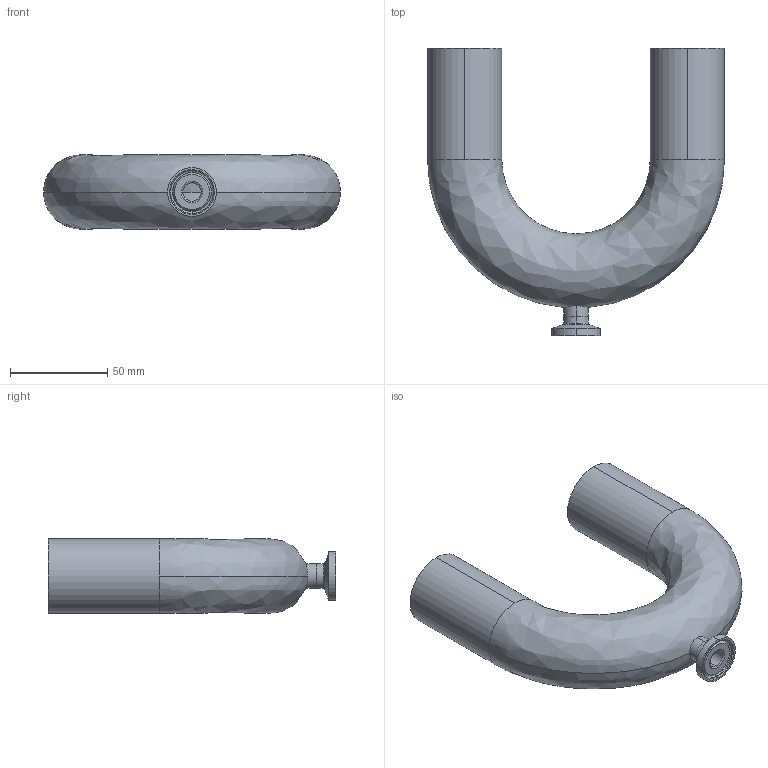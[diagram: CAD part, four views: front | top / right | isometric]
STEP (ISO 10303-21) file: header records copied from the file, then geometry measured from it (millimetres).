
FILE_DESCRIPTION (( 'STEP AP214' ), '1' );
FILE_NAME ('TE2UBWWC6L1.5x.5-...STEP', '2016-05-25T04:58:47', ( 'eran' ), ( '' ), 'SwSTEP 2.0', 'SolidWorks 2016', '' );
FILE_SCHEMA (( 'AUTOMOTIVE_DESIGN' ));
Length unit declared in the file: millimetre
Products named in the file (1): TE2UBWWC6L1.5x.5-..
Bounding box: 152.4 x 147.6 x 38.1 mm (x, y, z)
Volume: 57566.7 mm3; surface area: 69639.4 mm2
Topology: 2 solids, 2 shells, 42 faces, 104 edges, 66 vertices
Faces by surface type: cylinder 20, bspline 12, plane 6, cone 4
Entity records: 1607 total; most frequent: CARTESIAN_POINT 565, DIRECTION 222, ORIENTED_EDGE 208, EDGE_CURVE 104, AXIS2_PLACEMENT_3D 99, CIRCLE 68, VERTEX_POINT 66, EDGE_LOOP 48
